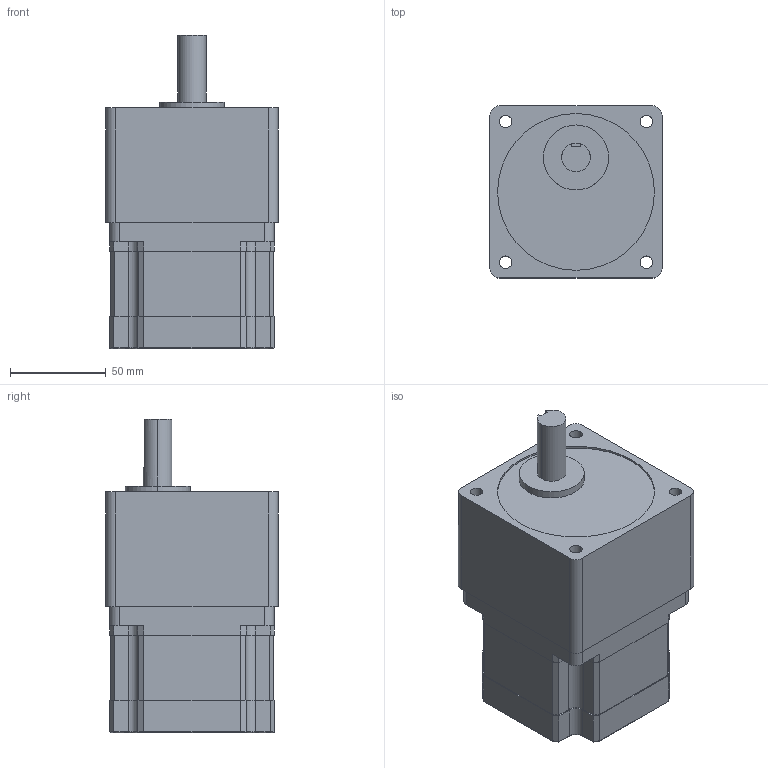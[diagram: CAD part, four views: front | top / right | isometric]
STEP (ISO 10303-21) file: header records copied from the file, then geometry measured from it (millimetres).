
FILE_DESCRIPTION (( 'STEP AP214' ), '1' );
FILE_NAME ('EXMK296-02GA.STEP', '2016-09-09T06:22:35', ( 'hoho' ), ( '' ), 'SwSTEP 2.0', 'SolidWorks 2013', '' );
FILE_SCHEMA (( 'AUTOMOTIVE_DESIGN' ));
Length unit declared in the file: millimetre
Products named in the file (1): EXMK296-02GA
Bounding box: 90 x 90 x 164 mm (x, y, z)
Volume: 912002.2 mm3; surface area: 66695.6 mm2
Topology: 1 solids, 1 shells, 138 faces, 366 edges, 236 vertices
Faces by surface type: plane 80, cylinder 54, torus 4
Entity records: 4554 total; most frequent: CARTESIAN_POINT 789, ORIENTED_EDGE 732, DIRECTION 710, EDGE_CURVE 366, VECTOR 268, LINE 268, VERTEX_POINT 236, AXIS2_PLACEMENT_3D 221
